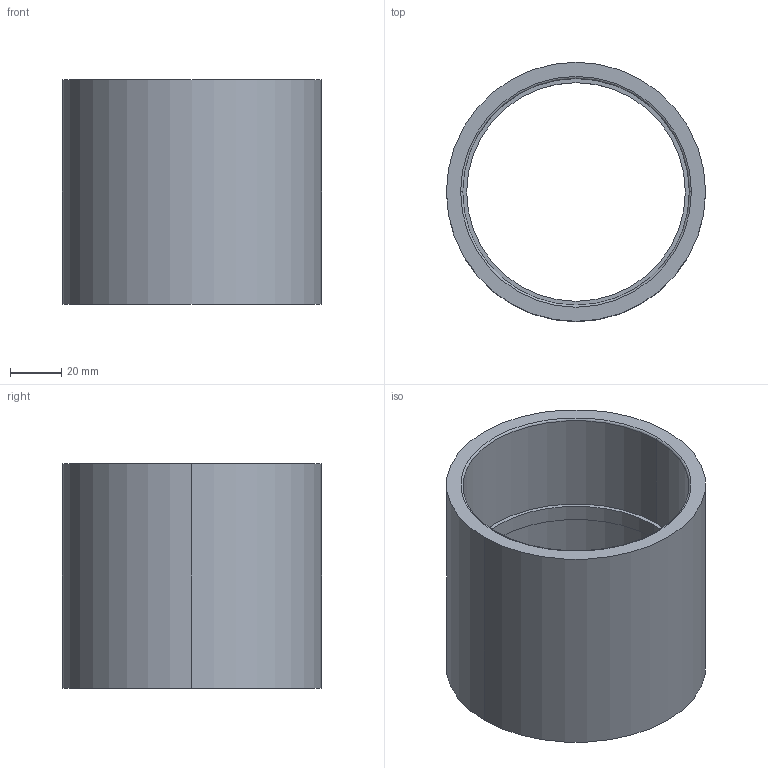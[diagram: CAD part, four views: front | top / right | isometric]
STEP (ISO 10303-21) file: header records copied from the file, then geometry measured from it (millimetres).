
FILE_DESCRIPTION((''),'2;1');
FILE_NAME('C:\Documents and Settings\Administrator\Desktop\Transfer Temp\coupling3inch.stp','2002-01-03T13:27:12',('Administrator'),(''),'Autodesk Inventor (tm) 3.0','Autodesk Inventor (tm) 3.0','');
FILE_SCHEMA(('CONFIG_CONTROL_DESIGN'));
Length unit declared in the file: inch
Products named in the file (1): coupling3inch
Bounding box: 101.6 x 101.6 x 87.88 mm (x, y, z)
Volume: 169682.3 mm3; surface area: 57014.4 mm2
Topology: 1 solids, 1 shells, 16 faces, 32 edges, 20 vertices
Faces by surface type: cylinder 8, torus 4, plane 4
Entity records: 529 total; most frequent: DIRECTION 90, CARTESIAN_POINT 69, ORIENTED_EDGE 64, AXIS2_PLACEMENT_3D 41, EDGE_CURVE 32, CIRCLE 24, VERTEX_POINT 20, EDGE_LOOP 20
